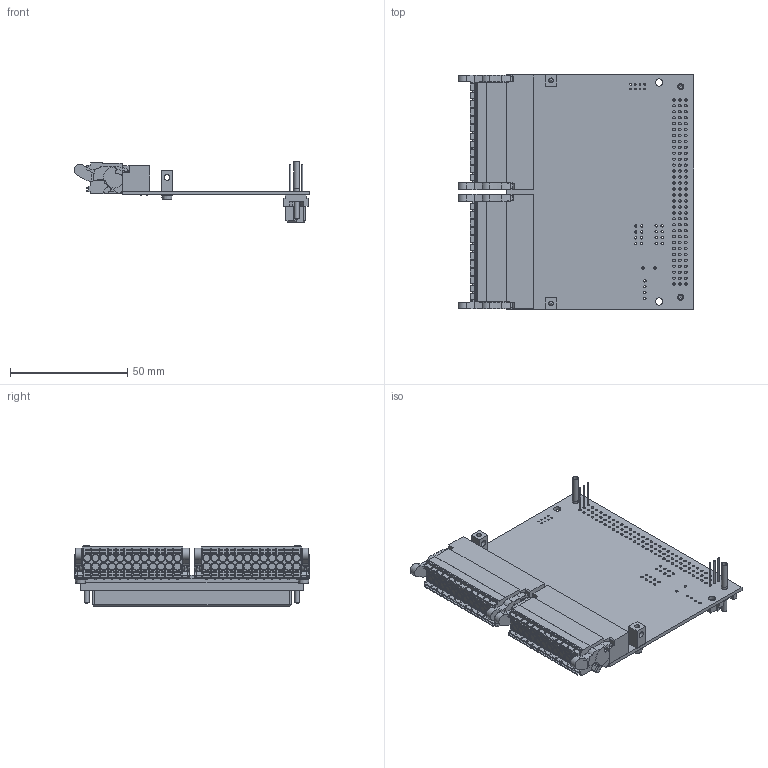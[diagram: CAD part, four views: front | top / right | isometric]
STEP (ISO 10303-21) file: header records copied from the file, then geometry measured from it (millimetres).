
FILE_DESCRIPTION (( 'STEP AP214' ), '1' );
FILE_NAME ('COP-Karte.STEP', '2016-05-13T05:07:00', ( '' ), ( '' ), 'SwSTEP 2.0', 'SolidWorks 2016', '' );
FILE_SCHEMA (( 'AUTOMOTIVE_DESIGN' ));
Length unit declared in the file: millimetre
Products named in the file (1): COP-Karte
Bounding box: 100.7 x 100.3 x 25.7 mm (x, y, z)
Surface area: 32484.1 mm2 (no closed solid volume)
Topology: 0 solids, 76 shells, 1679 faces, 5680 edges, 4002 vertices
Faces by surface type: plane 917, cylinder 704, bspline 50, cone 6, torus 2
Full cylindrical faces by diameter (mm): 0.6 x6, 0.7 x8, 1 x22, 1.05 x96, 2 x2, 2.05 x4, 2.1 x2, 2.4 x2, 2.5 x4, 2.8 x2, 3 x48, 3.1 x2, 4.5 x2
Entity records: 86624 total; most frequent: CARTESIAN_POINT 20552, DIRECTION 9793, ORIENTED_EDGE 8834, EDGE_CURVE 5346, VERTEX_POINT 3926, LINE 3307, VECTOR 3307, AXIS2_PLACEMENT_3D 3243
